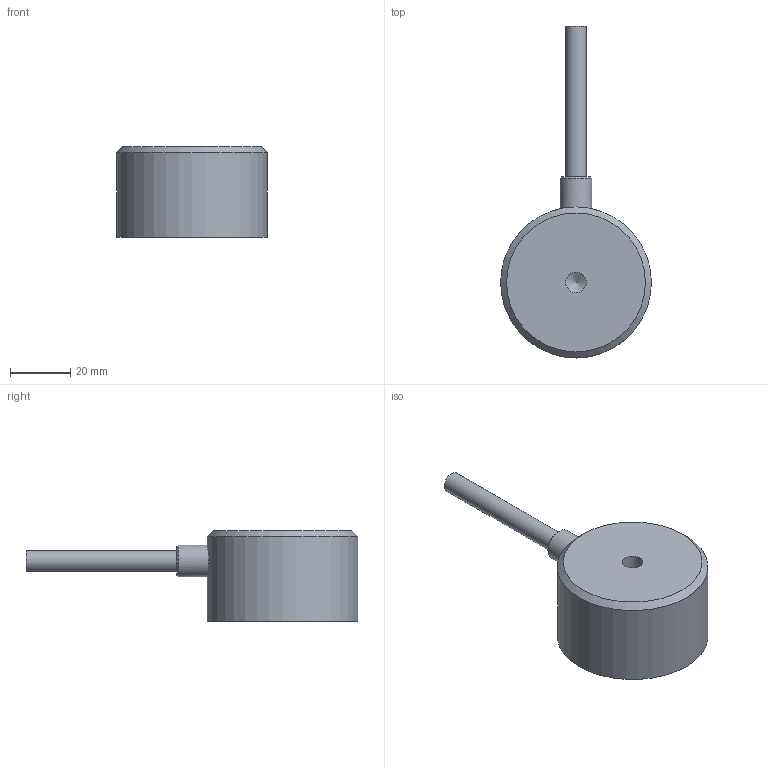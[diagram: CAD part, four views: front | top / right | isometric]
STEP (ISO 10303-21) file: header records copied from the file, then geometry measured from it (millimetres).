
FILE_DESCRIPTION(/* description */ (''),/* implementation_level */ '2;1');
FILE_NAME(/* name */ 'EMH-1-50Dx30H-S-DC24V.step',/* time_stamp */ '2023-12-15T11:47:02+09:00',/* author */ (''),/* organization */ (''),/* preprocessor_version */ 'ST-DEVELOPER v20',/* originating_system */ 'Autodesk Translation Framework v12.14.0.127',/* authorisation */ '');
FILE_SCHEMA (('AUTOMOTIVE_DESIGN { 1 0 10303 214 3 1 1 }'));
Length unit declared in the file: millimetre
Products named in the file (3): EMH-1-50Dx30H-S-DC24V; BODY; Cable
Assembly tree (2 placements, depth 2):
  EMH-1-50Dx30H-S-DC24V
    BODY
    Cable
Bounding box: 50 x 110 x 30 mm (x, y, z)
Volume: 60461.8 mm3; surface area: 10285.2 mm2
Topology: 2 solids, 2 shells, 16 faces, 27 edges, 18 vertices
Faces by surface type: plane 7, cylinder 6, cone 3
Full cylindrical faces by diameter (mm): 6.779 x1, 6.8 x1, 10.5 x1, 19 x1, 45 x1, 50 x1
Entity records: 526 total; most frequent: CARTESIAN_POINT 101, DIRECTION 79, ORIENTED_EDGE 52, AXIS2_PLACEMENT_3D 35, EDGE_CURVE 26, EDGE_LOOP 20, VERTEX_POINT 18, FACE_OUTER_BOUND 16
